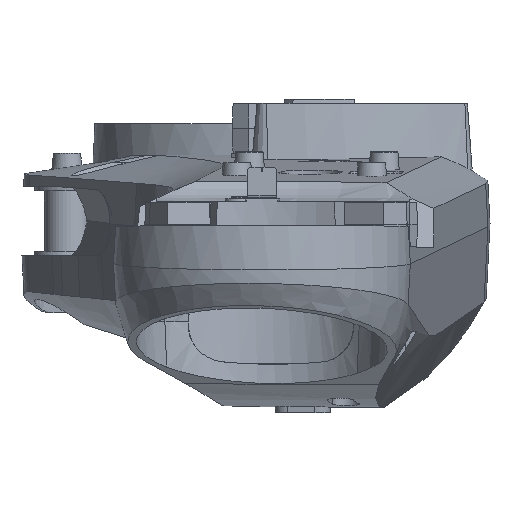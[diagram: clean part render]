
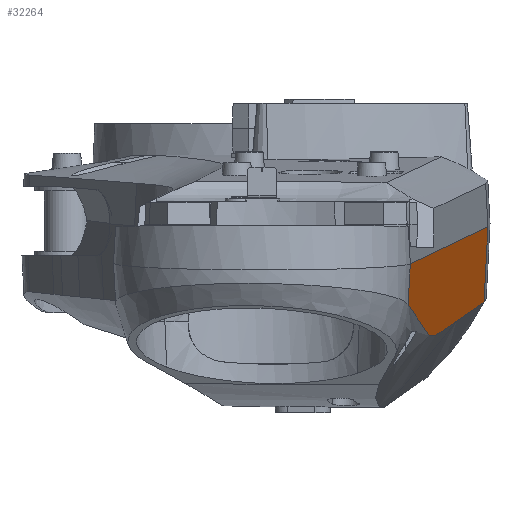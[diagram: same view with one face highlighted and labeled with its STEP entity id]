
A CAD part, top view. The second image highlights one B-rep face of the part: STEP entity #32264.
In plain terms, the highlighted planar face has unit normal (0.994, -0.057, 0.093).
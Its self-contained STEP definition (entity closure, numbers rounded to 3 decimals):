
#51 = CARTESIAN_POINT ( 'NONE',  ( 865.377, -343.366, 1595.497 ) ) ;
#306 = CARTESIAN_POINT ( 'NONE',  ( 870.173, -350.774, 1539.722 ) ) ;
#1165 = CARTESIAN_POINT ( 'NONE',  ( 852.076, -321.322, 1751.11 ) ) ;
#1395 = CARTESIAN_POINT ( 'NONE',  ( 853.47, -323.56, 1734.841 ) ) ;
#1644 = ORIENTED_EDGE ( 'NONE', *, *, #44890, .F. ) ;
#2135 = CARTESIAN_POINT ( 'NONE',  ( 856.245, -328.234, 1702.336 ) ) ;
#2370 = CARTESIAN_POINT ( 'NONE',  ( 867.759, -347.317, 1567.626 ) ) ;
#2616 = CARTESIAN_POINT ( 'NONE',  ( 880.414, -355.198, 1427.572 ) ) ;
#3102 = CARTESIAN_POINT ( 'NONE',  ( 872.637, -353.415, 1511.77 ) ) ;
#3617 = CARTESIAN_POINT ( 'NONE',  ( 938.381, -234.226, 881.976 ) ) ;
#4119 = CARTESIAN_POINT ( 'NONE',  ( 935.909, -317.011, 857.835 ) ) ;
#5796 = VECTOR ( 'NONE', #14915, 1000. ) ;
#6017 = ORIENTED_EDGE ( 'NONE', *, *, #10744, .T. ) ;
#6546 = CARTESIAN_POINT ( 'NONE',  ( 868.158, -347.949, 1562.978 ) ) ;
#6796 = CARTESIAN_POINT ( 'NONE',  ( 934.771, -317.802, 869.51 ) ) ;
#6949 = CARTESIAN_POINT ( 'NONE',  ( 897.261, -254.52, 1309.025 ) ) ;
#7692 = CARTESIAN_POINT ( 'NONE',  ( 883.562, -353.724, 1394.833 ) ) ;
#8090 = CARTESIAN_POINT ( 'NONE',  ( 940.282, -233.288, 862.235 ) ) ;
#9033 = CARTESIAN_POINT ( 'NONE',  ( 854.458, -325.272, 1723.239 ) ) ;
#9598 = VECTOR ( 'NONE', #34462, 1000. ) ;
#9748 = FACE_OUTER_BOUND ( 'NONE', #20134, .T. ) ;
#9766 = CARTESIAN_POINT ( 'NONE',  ( 855.054, -326.259, 1716.271 ) ) ;
#10006 = CARTESIAN_POINT ( 'NONE',  ( 884.927, -352.769, 1380.824 ) ) ;
#10744 = EDGE_CURVE ( 'NONE', #27224, #12984, #26815, .T. ) ;
#11394 = CARTESIAN_POINT ( 'NONE',  ( 883.108, -354.01, 1399.505 ) ) ;
#12984 = VERTEX_POINT ( 'NONE', #14548 ) ;
#13212 = CARTESIAN_POINT ( 'NONE',  ( 852.877, -322.536, 1741.804 ) ) ;
#13936 = CARTESIAN_POINT ( 'NONE',  ( 884.472, -353.092, 1385.494 ) ) ;
#14548 = CARTESIAN_POINT ( 'NONE',  ( 940.282, -233.288, 862.235 ) ) ;
#14915 = DIRECTION ( 'NONE',  ( -0.096, -0.047, 0.994 ) ) ;
#15072 = CARTESIAN_POINT ( 'NONE',  ( 881.755, -354.724, 1413.53 ) ) ;
#15118 = LINE ( 'NONE', #18573, #17582 ) ;
#15327 = CARTESIAN_POINT ( 'NONE',  ( 885.838, -352.13, 1371.485 ) ) ;
#16180 = CARTESIAN_POINT ( 'NONE',  ( 855.252, -326.588, 1713.949 ) ) ;
#16200 = B_SPLINE_CURVE_WITH_KNOTS ( 'NONE', 3,
 ( #24534, #24287, #1165, #35152, #39564, #31953, #13212, #31703, #1395, #17146, #32187, #9033, #35888, #9766, #16180, #46715, #2135, #31457, #47196, #43505, #31234, #46230, #51, #40280, #29212, #28743, #2370, #6546, #43752, #21307, #306, #3102, #30376, #36603, #44231, #25506, #18106, #2616, #33814, #15072, #41439, #36843, #11394, #7692, #21798, #13936, #10006, #15327, #25256, #47922, #40044, #25023, #32911, #21558, #45140, #30119, #26419, #36120, #36357, #6796, #22706, #45390, #37732, #28977, #43987 ),
 .UNSPECIFIED., .F., .F.,
 ( 4, 2, 2, 2, 2, 2, 2, 2, 2, 2, 2, 2, 2, 2, 2, 2, 2, 2, 2, 2, 2, 2, 2, 2, 2, 1, 2, 1, 2, 2, 2, 1, 2, 4 ),
 ( 0.008, 0.011, 0.015, 0.022, 0.029, 0.036, 0.043, 0.05, 0.064, 0.121, 0.149, 0.177, 0.191, 0.199, 0.206, 0.234, 0.29, 0.319, 0.333, 0.347, 0.361, 0.368, 0.375, 0.389, 0.403, 0.46, 0.686, 0.799, 0.855, 0.883, 0.898, 0.905, 0.908, 0.912 ),
 .UNSPECIFIED. ) ;
#16496 = ORIENTED_EDGE ( 'NONE', *, *, #45969, .T. ) ;
#17146 = CARTESIAN_POINT ( 'NONE',  ( 853.865, -324.252, 1730.202 ) ) ;
#17582 = VECTOR ( 'NONE', #48393, 1000. ) ;
#18022 = PLANE ( 'NONE',  #29434 ) ;
#18106 = CARTESIAN_POINT ( 'NONE',  ( 879.527, -355.387, 1436.942 ) ) ;
#18504 = DIRECTION ( 'NONE',  ( 0.994, -0.057, 0.093 ) ) ;
#18573 = CARTESIAN_POINT ( 'NONE',  ( 854.24, -275.752, 1755.815 ) ) ;
#20134 = EDGE_LOOP ( 'NONE', ( #1644, #16496, #6017, #46544 ) ) ;
#21307 = CARTESIAN_POINT ( 'NONE',  ( 869.361, -349.74, 1549.03 ) ) ;
#21558 = CARTESIAN_POINT ( 'NONE',  ( 923.163, -325.952, 988.582 ) ) ;
#21798 = CARTESIAN_POINT ( 'NONE',  ( 883.789, -353.57, 1392.498 ) ) ;
#22015 = CARTESIAN_POINT ( 'NONE',  ( 851.876, -321.015, 1753.436 ) ) ;
#22307 = LINE ( 'NONE', #3617, #5796 ) ;
#22706 = CARTESIAN_POINT ( 'NONE',  ( 935.112, -317.563, 866.007 ) ) ;
#24265 = DIRECTION ( 'NONE',  ( -0.093, 0., 0.996 ) ) ;
#24287 = CARTESIAN_POINT ( 'NONE',  ( 851.974, -321.198, 1752.277 ) ) ;
#24534 = CARTESIAN_POINT ( 'NONE',  ( 851.876, -321.015, 1753.436 ) ) ;
#25023 = CARTESIAN_POINT ( 'NONE',  ( 906.776, -337.448, 1156.686 ) ) ;
#25256 = CARTESIAN_POINT ( 'NONE',  ( 886.293, -351.811, 1366.816 ) ) ;
#25506 = CARTESIAN_POINT ( 'NONE',  ( 879.085, -355.443, 1441.63 ) ) ;
#26419 = CARTESIAN_POINT ( 'NONE',  ( 932.267, -319.567, 895.192 ) ) ;
#26428 = VERTEX_POINT ( 'NONE', #22015 ) ;
#26815 = LINE ( 'NONE', #8090, #9598 ) ;
#27224 = VERTEX_POINT ( 'NONE', #4119 ) ;
#28743 = CARTESIAN_POINT ( 'NONE',  ( 867.561, -346.991, 1569.949 ) ) ;
#28977 = CARTESIAN_POINT ( 'NONE',  ( 935.795, -317.092, 859.003 ) ) ;
#29212 = CARTESIAN_POINT ( 'NONE',  ( 866.965, -346., 1576.916 ) ) ;
#29434 = AXIS2_PLACEMENT_3D ( 'NONE', #6949, #18504, #24265 ) ;
#30119 = CARTESIAN_POINT ( 'NONE',  ( 931.357, -320.205, 904.531 ) ) ;
#30376 = CARTESIAN_POINT ( 'NONE',  ( 874.319, -354.565, 1493.101 ) ) ;
#31234 = CARTESIAN_POINT ( 'NONE',  ( 862.995, -339.421, 1623.368 ) ) ;
#31457 = CARTESIAN_POINT ( 'NONE',  ( 858.23, -331.524, 1679.11 ) ) ;
#31703 = CARTESIAN_POINT ( 'NONE',  ( 853.273, -323.212, 1737.161 ) ) ;
#31953 = CARTESIAN_POINT ( 'NONE',  ( 852.679, -322.208, 1744.126 ) ) ;
#32187 = CARTESIAN_POINT ( 'NONE',  ( 854.062, -324.597, 1727.882 ) ) ;
#32264 = ADVANCED_FACE ( 'NONE', ( #9748 ), #18022, .T. ) ;
#32911 = CARTESIAN_POINT ( 'NONE',  ( 917.701, -329.784, 1044.617 ) ) ;
#33814 = CARTESIAN_POINT ( 'NONE',  ( 880.86, -355.065, 1422.89 ) ) ;
#34462 = DIRECTION ( 'NONE',  ( 0.052, 0.997, 0.052 ) ) ;
#35152 = CARTESIAN_POINT ( 'NONE',  ( 852.278, -321.603, 1748.78 ) ) ;
#35888 = CARTESIAN_POINT ( 'NONE',  ( 854.657, -325.601, 1720.917 ) ) ;
#36120 = CARTESIAN_POINT ( 'NONE',  ( 933.633, -318.602, 881.183 ) ) ;
#36357 = CARTESIAN_POINT ( 'NONE',  ( 934.088, -318.281, 876.514 ) ) ;
#36603 = CARTESIAN_POINT ( 'NONE',  ( 876.897, -355.378, 1465.045 ) ) ;
#36843 = CARTESIAN_POINT ( 'NONE',  ( 882.882, -354.144, 1401.842 ) ) ;
#37628 = EDGE_CURVE ( 'NONE', #12984, #48372, #22307, .T. ) ;
#37732 = CARTESIAN_POINT ( 'NONE',  ( 935.681, -317.17, 860.17 ) ) ;
#39118 = CARTESIAN_POINT ( 'NONE',  ( 854.24, -275.752, 1755.815 ) ) ;
#39564 = CARTESIAN_POINT ( 'NONE',  ( 852.379, -321.75, 1747.616 ) ) ;
#40044 = CARTESIAN_POINT ( 'NONE',  ( 897.672, -343.833, 1250.077 ) ) ;
#40280 = CARTESIAN_POINT ( 'NONE',  ( 866.568, -345.34, 1581.561 ) ) ;
#41439 = CARTESIAN_POINT ( 'NONE',  ( 882.205, -354.514, 1408.853 ) ) ;
#43505 = CARTESIAN_POINT ( 'NONE',  ( 862.201, -338.105, 1632.659 ) ) ;
#43752 = CARTESIAN_POINT ( 'NONE',  ( 868.358, -348.255, 1560.654 ) ) ;
#43987 = CARTESIAN_POINT ( 'NONE',  ( 935.909, -317.011, 857.835 ) ) ;
#44231 = CARTESIAN_POINT ( 'NONE',  ( 877.767, -355.496, 1455.684 ) ) ;
#44890 = EDGE_CURVE ( 'NONE', #26428, #48372, #15118, .T. ) ;
#45140 = CARTESIAN_POINT ( 'NONE',  ( 928.626, -322.121, 932.548 ) ) ;
#45390 = CARTESIAN_POINT ( 'NONE',  ( 935.454, -317.327, 862.505 ) ) ;
#45969 = EDGE_CURVE ( 'NONE', #26428, #27224, #16200, .T. ) ;
#46230 = CARTESIAN_POINT ( 'NONE',  ( 864.583, -342.054, 1604.788 ) ) ;
#46544 = ORIENTED_EDGE ( 'NONE', *, *, #37628, .T. ) ;
#46715 = CARTESIAN_POINT ( 'NONE',  ( 855.848, -327.576, 1706.981 ) ) ;
#47196 = CARTESIAN_POINT ( 'NONE',  ( 859.818, -334.157, 1660.53 ) ) ;
#47922 = CARTESIAN_POINT ( 'NONE',  ( 888.569, -350.216, 1343.468 ) ) ;
#48372 = VERTEX_POINT ( 'NONE', #39118 ) ;
#48393 = DIRECTION ( 'NONE',  ( 0.052, 0.997, 0.052 ) ) ;
